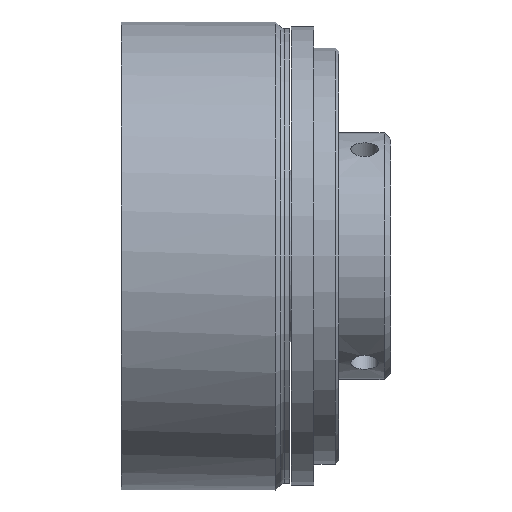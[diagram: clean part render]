
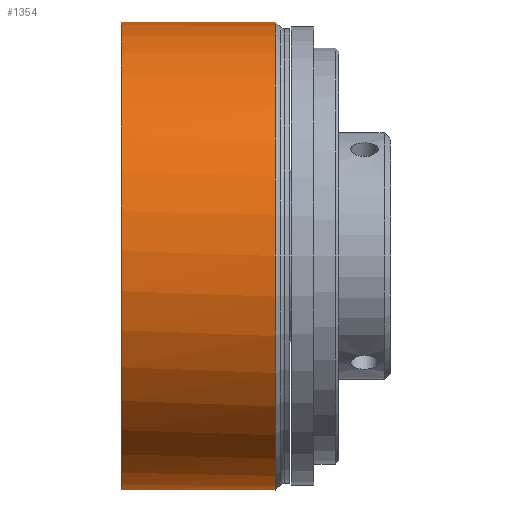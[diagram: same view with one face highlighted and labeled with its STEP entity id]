
A CAD part, front view. The second image highlights one B-rep face of the part: STEP entity #1354.
In plain terms, the highlighted cylindrical face has radius 36 mm (diameter 72 mm), a full revolution.
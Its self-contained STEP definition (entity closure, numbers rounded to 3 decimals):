
#1 = CARTESIAN_POINT ( 'NONE',  ( 23.7, 0., 0. ) ) ;
#6 = EDGE_CURVE ( 'NONE', #846, #316, #1511, .T. ) ;
#74 = AXIS2_PLACEMENT_3D ( 'NONE', #1641, #491, #123 ) ;
#83 = DIRECTION ( 'NONE',  ( 0., 0., 1. ) ) ;
#86 = DIRECTION ( 'NONE',  ( -1., 0., 0. ) ) ;
#118 = AXIS2_PLACEMENT_3D ( 'NONE', #1207, #1224, #83 ) ;
#123 = DIRECTION ( 'NONE',  ( 0., 0., 1. ) ) ;
#137 = VECTOR ( 'NONE', #229, 1000. ) ;
#185 = EDGE_LOOP ( 'NONE', ( #888 ) ) ;
#229 = DIRECTION ( 'NONE',  ( -1., 0., 0. ) ) ;
#259 = ORIENTED_EDGE ( 'NONE', *, *, #289, .F. ) ;
#289 = EDGE_CURVE ( 'NONE', #1489, #1289, #1046, .T. ) ;
#316 = VERTEX_POINT ( 'NONE', #338 ) ;
#338 = CARTESIAN_POINT ( 'NONE',  ( 0., 35.93, 2.25 ) ) ;
#347 = AXIS2_PLACEMENT_3D ( 'NONE', #1099, #1120, #367 ) ;
#367 = DIRECTION ( 'NONE',  ( 0., 0., 1. ) ) ;
#491 = DIRECTION ( 'NONE',  ( -1., 0., 0. ) ) ;
#583 = ORIENTED_EDGE ( 'NONE', *, *, #734, .F. ) ;
#587 = CIRCLE ( 'NONE', #934, 36. ) ;
#648 = CARTESIAN_POINT ( 'NONE',  ( 11.5, 35.93, -2.25 ) ) ;
#722 = FACE_OUTER_BOUND ( 'NONE', #1348, .T. ) ;
#734 = EDGE_CURVE ( 'NONE', #1289, #846, #1113, .T. ) ;
#846 = VERTEX_POINT ( 'NONE', #1261 ) ;
#847 = VERTEX_POINT ( 'NONE', #1488 ) ;
#874 = VECTOR ( 'NONE', #1159, 1000. ) ;
#888 = ORIENTED_EDGE ( 'NONE', *, *, #1362, .T. ) ;
#934 = AXIS2_PLACEMENT_3D ( 'NONE', #1, #86, #1516 ) ;
#1007 = CYLINDRICAL_SURFACE ( 'NONE', #74, 36. ) ;
#1020 = CARTESIAN_POINT ( 'NONE',  ( 11.5, 35.93, 2.25 ) ) ;
#1046 = CIRCLE ( 'NONE', #118, 36. ) ;
#1083 = CARTESIAN_POINT ( 'NONE',  ( 11.5, 35.93, -2.25 ) ) ;
#1099 = CARTESIAN_POINT ( 'NONE',  ( 0., 0., 0. ) ) ;
#1113 = LINE ( 'NONE', #648, #874 ) ;
#1120 = DIRECTION ( 'NONE',  ( -1., 0., 0. ) ) ;
#1159 = DIRECTION ( 'NONE',  ( -1., 0., 0. ) ) ;
#1201 = CARTESIAN_POINT ( 'NONE',  ( 11.5, 35.93, 2.25 ) ) ;
#1207 = CARTESIAN_POINT ( 'NONE',  ( 11.5, 0., 0. ) ) ;
#1224 = DIRECTION ( 'NONE',  ( -1., 0., 0. ) ) ;
#1261 = CARTESIAN_POINT ( 'NONE',  ( 0., 35.93, -2.25 ) ) ;
#1272 = LINE ( 'NONE', #1201, #137 ) ;
#1289 = VERTEX_POINT ( 'NONE', #1083 ) ;
#1318 = EDGE_CURVE ( 'NONE', #1489, #316, #1272, .T. ) ;
#1348 = EDGE_LOOP ( 'NONE', ( #583, #259, #1407, #1371 ) ) ;
#1349 = FACE_OUTER_BOUND ( 'NONE', #185, .T. ) ;
#1354 = ADVANCED_FACE ( 'NONE', ( #722, #1349 ), #1007, .T. ) ;
#1362 = EDGE_CURVE ( 'NONE', #847, #847, #587, .T. ) ;
#1371 = ORIENTED_EDGE ( 'NONE', *, *, #6, .F. ) ;
#1407 = ORIENTED_EDGE ( 'NONE', *, *, #1318, .T. ) ;
#1488 = CARTESIAN_POINT ( 'NONE',  ( 23.7, 0., 36. ) ) ;
#1489 = VERTEX_POINT ( 'NONE', #1020 ) ;
#1511 = CIRCLE ( 'NONE', #347, 36. ) ;
#1516 = DIRECTION ( 'NONE',  ( 0., 0., 1. ) ) ;
#1641 = CARTESIAN_POINT ( 'NONE',  ( 0., 0., 0. ) ) ;
